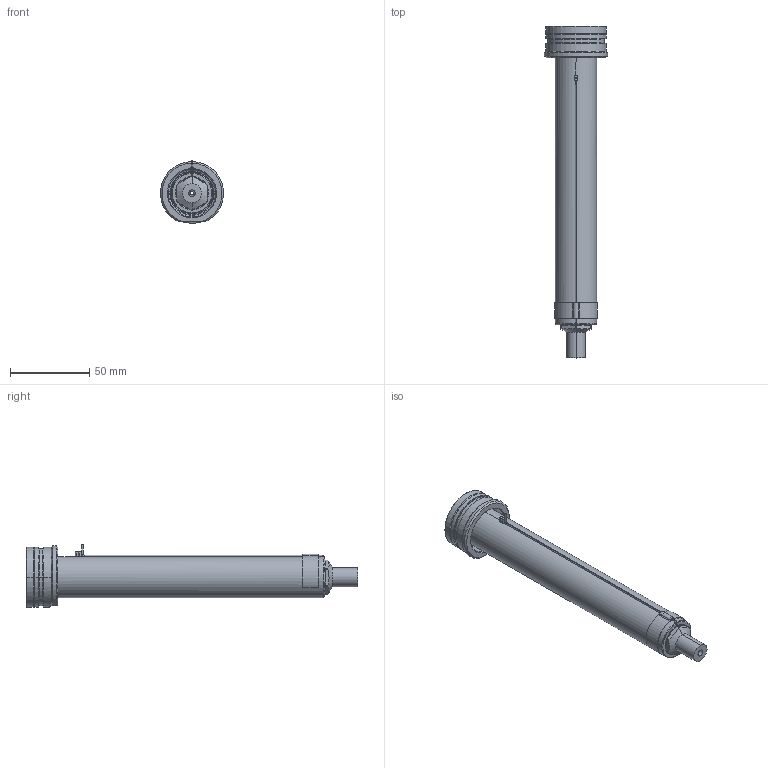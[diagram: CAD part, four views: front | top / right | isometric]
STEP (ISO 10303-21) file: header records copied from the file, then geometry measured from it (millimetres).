
FILE_DESCRIPTION((''),'2;1');
FILE_NAME('EO08_VG-FBE_WR_180_SW','2024-02-19T13:57:18',('sundharh'),(''),'CREO PARAMETRIC BY PTC INC, 2023154','CREO PARAMETRIC BY PTC INC, 2023154','');
FILE_SCHEMA(('CONFIG_CONTROL_DESIGN'));
Length unit declared in the file: millimetre
Products named in the file (1): EO08_VG-FBE_WR_180_SW
Bounding box: 39.88 x 210 x 39.52 mm (x, y, z)
Volume: 103494.5 mm3; surface area: 28596.1 mm2
Topology: 1 solids, 1 shells, 204 faces, 498 edges, 301 vertices
Faces by surface type: cylinder 72, plane 46, cone 43, torus 29, bspline 12, sphere 2
Entity records: 7418 total; most frequent: CARTESIAN_POINT 2518, DIRECTION 1099, ORIENTED_EDGE 988, EDGE_CURVE 494, AXIS2_PLACEMENT_3D 462, VERTEX_POINT 301, CIRCLE 270, EDGE_LOOP 221
